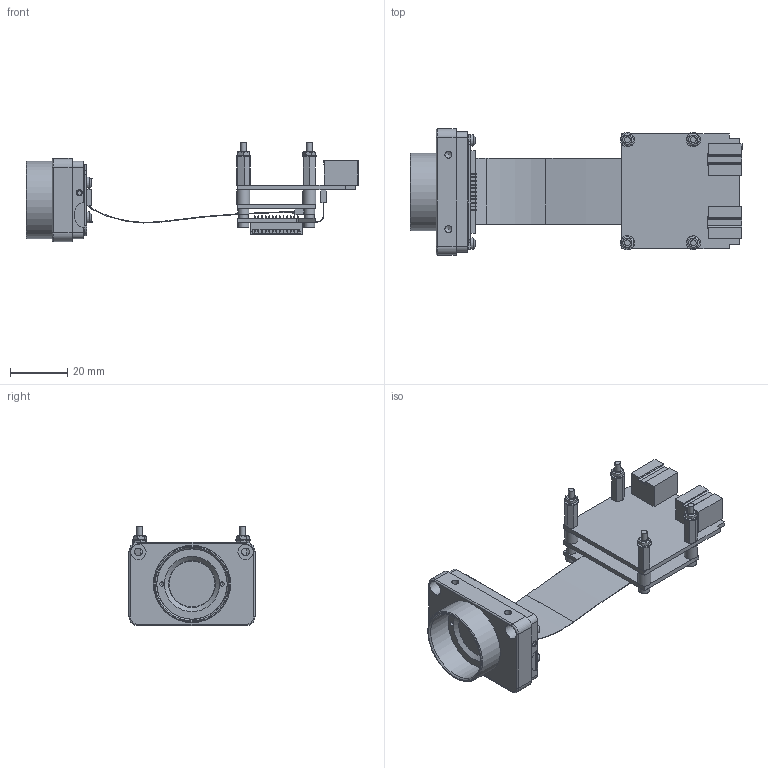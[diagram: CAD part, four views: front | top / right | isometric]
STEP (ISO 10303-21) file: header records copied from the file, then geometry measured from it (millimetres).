
FILE_DESCRIPTION((''),'2;1');
FILE_NAME('\\Avtnet.local\dfs-mechanics\Inventor\Kamerafamilien\Stingray\STEP-Dateien_Stingray\Vorlagen_STP\Stingray_ Boardlevel.stp','2010-03-18T15:24:36',('mressin'),(''),'Autodesk Inventor 11','Autodesk Inventor 11','');
FILE_SCHEMA(('AUTOMOTIVE_DESIGN { 1 0 10303 214 1 1 1 1 }'));
Length unit declared in the file: millimetre
Products named in the file (29): Stingray_ Boardlevel; Frontflansch mit ICX414AL_BL; K5000892_ET-Stingray Sensorauflage ICX414+ICX415; M3-SB-ICX414_kaumBestueckt; M3-SB-ICX414-Board; CON45_AVXELCO_6240_-_INVERTED_PINS_0_0866_J; K8150044_Sensor ICX414AL-E BW; K5001064_Stingray_Frontflansch-einteilig ; K5510156_Linsenschraube mit KS ISO7045-M2x8-A2; LP-FLAT Flexible Cable FFC 0.5 45P,32mm; K4000201_Filterhalter mit IRF-Hoya_geklebt_ZUS; K5000806_Filterhalter 16mm; K5100173_OT-Filter Hoya C-5000 (16x1); K5550008-Sechskantmutter ISO4032-M2-A2; K5520029-Unterlegscheibe ISO7089-2,2-A2; K5500062_AbstandsbolzenM2x10; BL; K7510352_M3-F-IF-CC; K7510352_M3-F-IF-CC-IO; 2FW-Stecker; K7510254_uC-Board_BL; K5510127_Zylinderschr. mit ISK ISO4762-M2x10-A2; K7600567_Abstandshülse-SMTSO-2.1-5 ET; K7510348_M3-IO-AD; IO-Board; Molex_BL13p_530471310; IO-Flex; K5000756_Abstandshülse für M2-3,2; K5510126_Zylinderschr. mit ISK ISO4762-M2x16-A2
Assembly tree (46 placements, depth 4):
  Stingray_ Boardlevel
    Frontflansch mit ICX414AL_BL
      K5000892_ET-Stingray Sensorauflage ICX414+ICX415
      M3-SB-ICX414_kaumBestueckt
        M3-SB-ICX414-Board
        CON45_AVXELCO_6240_-_INVERTED_PINS_0_0866_J
        K8150044_Sensor ICX414AL-E BW
      K5001064_Stingray_Frontflansch-einteilig 
      K5510156_Linsenschraube mit KS ISO7045-M2x8-A2  x4
    LP-FLAT Flexible Cable FFC 0.5 45P,32mm
    K4000201_Filterhalter mit IRF-Hoya_geklebt_ZUS
      K5000806_Filterhalter 16mm
      K5100173_OT-Filter Hoya C-5000 (16x1)
    K5550008-Sechskantmutter ISO4032-M2-A2  x4
    K5520029-Unterlegscheibe ISO7089-2,2-A2  x4
    K5500062_AbstandsbolzenM2x10  x4
    BL
      K7510352_M3-F-IF-CC
        K7510352_M3-F-IF-CC-IO
        2FW-Stecker
      K7510254_uC-Board_BL
      K5510127_Zylinderschr. mit ISK ISO4762-M2x10-A2  x2
      K7600567_Abstandshülse-SMTSO-2.1-5 ET  x4
      K7510348_M3-IO-AD
        IO-Board
        Molex_BL13p_530471310
        IO-Flex
      K5000756_Abstandshülse für M2-3,2  x2
      K5510126_Zylinderschr. mit ISK ISO4762-M2x16-A2  x2
Bounding box: 115.88 x 44 x 34.6 mm (x, y, z)
Volume: 20366.9 mm3; surface area: 31196.2 mm2
Topology: 41 solids, 41 shells, 1764 faces, 4665 edges, 3054 vertices
Faces by surface type: plane 1021, cylinder 430, bspline 164, cone 90, torus 55, sphere 4
Full cylindrical faces by diameter (mm): 0.2 x169, 0.3 x9, 0.5 x2, 0.6 x29, 0.623 x21, 1.5 x1, 1.8 x4, 2 x18, 2.1 x8, 2.2 x8, 2.3 x6, 2.8 x4, 3.3 x2, 3.8 x4, 4.5 x4, 5 x4, 14 x1, 16 x1, 16.3 x1, 22 x1, 24 x1, 24.5 x1, 24.6 x1, 25.5 x1, 27 x1
Entity records: 47784 total; most frequent: CARTESIAN_POINT 9024, DIRECTION 7583, ORIENTED_EDGE 7422, EDGE_CURVE 3711, VERTEX_POINT 2634, VECTOR 2623, LINE 2623, AXIS2_PLACEMENT_3D 2480
